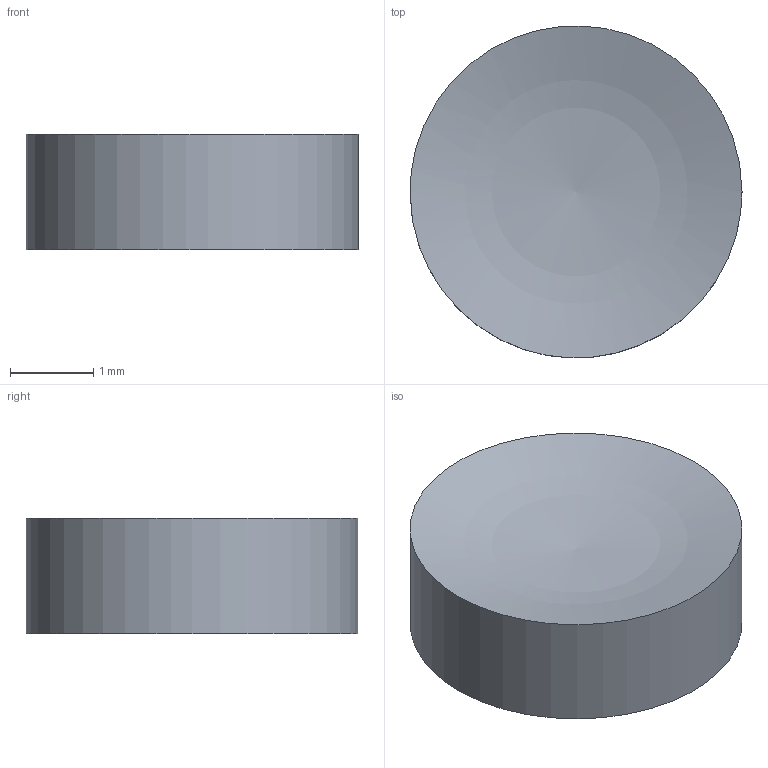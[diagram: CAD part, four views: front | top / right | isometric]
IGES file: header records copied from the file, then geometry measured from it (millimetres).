
Global section: file name: SLM-04B-04N; native system: Autodesk Inventor 2015; preprocessor: unknown; author: r.sato; date: 20161219.191742; units: millimetre
Bounding box: 4 x 4 x 1.39 mm (x, y, z)
Volume: 13.7 mm3; surface area: 43.1 mm2
Topology: 1 solids, 1 shells, 3 faces, 5 edges, 4 vertices
Faces by surface type: bspline 3
